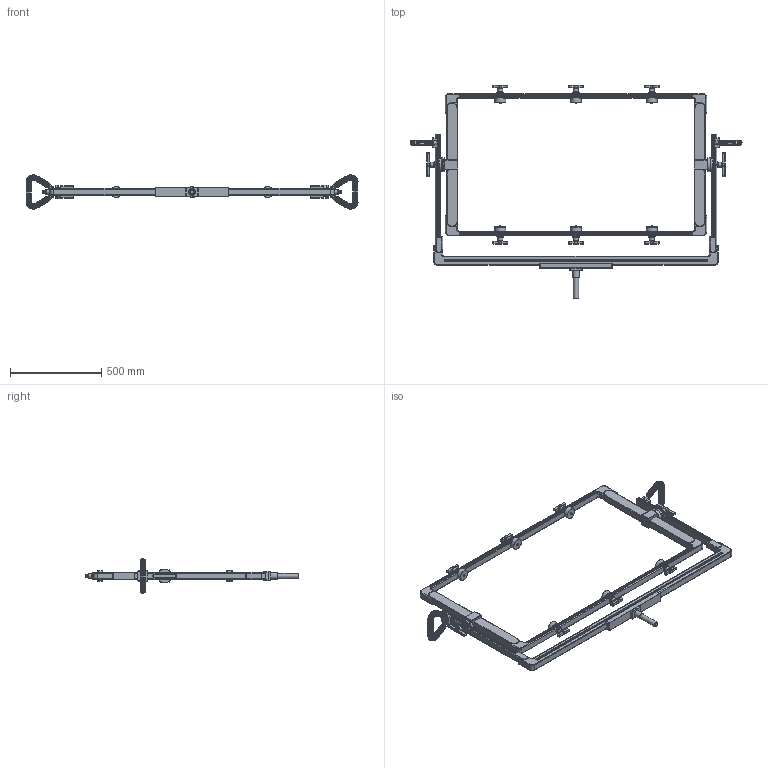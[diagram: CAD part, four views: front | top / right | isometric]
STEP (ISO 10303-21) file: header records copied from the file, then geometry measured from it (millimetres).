
FILE_DESCRIPTION(/* description */ ('STEP AP242','CAx-IF Rec.Pracs.---Representation and Presentation of Product Manufacturing Information (PMI)---4.0---2014-10-13','CAx-IF Rec.Pracs.---3D Tessellated Geometry---0.4---2014-09-14','2;1'),/* implementation_level */ '2;1');
FILE_NAME(/* name */ '677259e3c7c34b2d09873214',/* time_stamp */ '2024-12-30T08:29:27Z',/* author */ (''),/* organization */ (''),/* preprocessor_version */ 'ST-DEVELOPER v20',/* originating_system */ 'ONSHAPE BY PTC INC, 1.191',/* authorisation */ ' ');
FILE_SCHEMA (('AP242_MANAGED_MODEL_BASED_3D_ENGINEERING_MIM_LF { 1 0 10303 442 1 1 4 }'));
Products named in the file (1): Creamsource Vortex8 3UP Yoke 3D December2024
Bounding box: 1819.2 x 1170.95 x 190 mm (x, y, z)
Volume: 13312646.9 mm3; surface area: 1437586.6 mm2
Topology: 1 solids, 1 shells, 3676 faces, 8475 edges, 4857 vertices
Faces by surface type: cylinder 1278, torus 959, plane 740, bspline 480, cone 219
Full cylindrical faces by diameter (mm): 10 x14, 12 x2, 17 x4, 25 x2, 28 x1, 34 x1, 60 x6, 75 x4
Entity records: 139830 total; most frequent: CARTESIAN_POINT 48619, DIRECTION 16986, ORIENTED_EDGE 16624, EDGE_CURVE 8312, AXIS2_PLACEMENT_3D 7047, VERTEX_POINT 4798, EDGE_LOOP 3852, FACE_BOUND 3852
